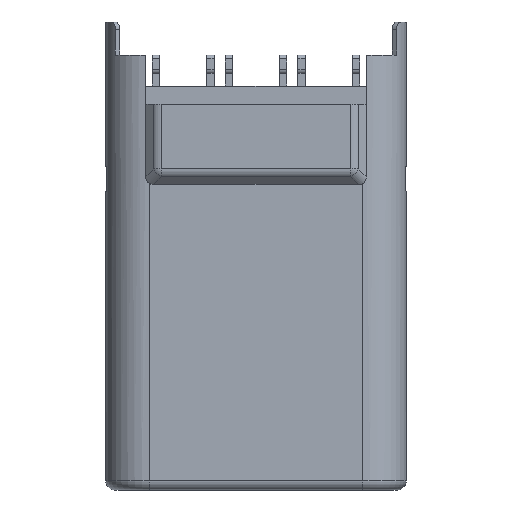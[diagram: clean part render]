
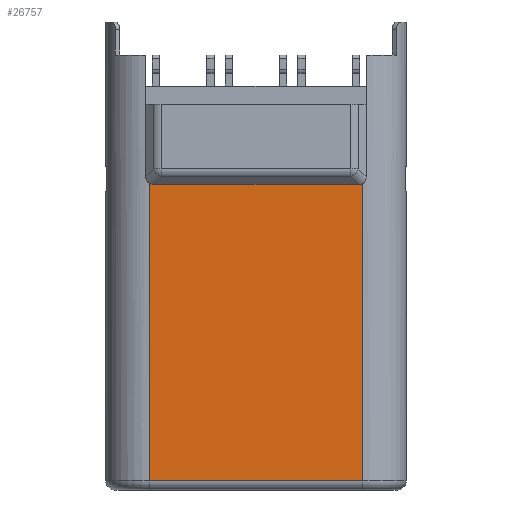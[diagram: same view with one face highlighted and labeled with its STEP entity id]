
A CAD part, front view. The second image highlights one B-rep face of the part: STEP entity #26757.
In plain terms, the highlighted planar face has unit normal (0, -1, 0).
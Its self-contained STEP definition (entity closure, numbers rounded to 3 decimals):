
#2078=DIRECTION('',(1.,0.,0.));
#2079=VECTOR('',#2078,5.85);
#2080=CARTESIAN_POINT('',(-2.925,-1.2,0.22));
#2081=LINE('',#2080,#2079);
#6088=CARTESIAN_POINT('',(2.925,-1.2,8.385));
#6089=CARTESIAN_POINT('',(2.89,-1.2,8.367));
#6090=CARTESIAN_POINT('',(2.852,-1.2,8.36));
#6091=CARTESIAN_POINT('',(2.813,-1.2,8.36));
#6093=CARTESIAN_POINT('',(-2.925,-1.2,8.385));
#6111=CARTESIAN_POINT('',(2.925,-1.2,8.385));
#6121=CARTESIAN_POINT('',(-2.813,-1.2,8.36));
#6122=CARTESIAN_POINT('',(-2.852,-1.2,8.36));
#6123=CARTESIAN_POINT('',(-2.89,-1.2,8.367));
#6124=CARTESIAN_POINT('',(-2.925,-1.2,8.385));
#6161=DIRECTION('',(1.,0.,0.));
#6162=VECTOR('',#6161,5.626);
#6163=CARTESIAN_POINT('',(-2.813,-1.2,8.36));
#6164=LINE('',#6163,#6162);
#6165=DIRECTION('',(0.,0.,-1.));
#6166=VECTOR('',#6165,8.165);
#6167=CARTESIAN_POINT('',(2.925,-1.2,8.385));
#6168=LINE('',#6167,#6166);
#6169=DIRECTION('',(0.,0.,1.));
#6170=VECTOR('',#6169,8.165);
#6171=CARTESIAN_POINT('',(-2.925,-1.2,0.22));
#6172=LINE('',#6171,#6170);
#15314=CARTESIAN_POINT('',(-2.925,-1.2,0.22));
#15315=CARTESIAN_POINT('',(2.925,-1.2,0.22));
#15316=VERTEX_POINT('',#15314);
#15317=VERTEX_POINT('',#15315);
#17527=VERTEX_POINT('',#6093);
#17531=CARTESIAN_POINT('',(-2.813,-1.2,8.36));
#17533=VERTEX_POINT('',#17531);
#17546=VERTEX_POINT('',#6111);
#17547=CARTESIAN_POINT('',(2.813,-1.2,8.36));
#17548=VERTEX_POINT('',#17547);
#26743=CARTESIAN_POINT('',(0.,-1.2,5.095));
#26744=DIRECTION('',(0.,1.,0.));
#26745=DIRECTION('',(0.,0.,-1.));
#26746=AXIS2_PLACEMENT_3D('',#26743,#26744,#26745);
#26747=PLANE('',#26746);
#26748=ORIENTED_EDGE('',*,*,#26738,.T.);
#26749=ORIENTED_EDGE('',*,*,#26638,.F.);
#26751=ORIENTED_EDGE('',*,*,#26750,.T.);
#26752=ORIENTED_EDGE('',*,*,#21555,.F.);
#26753=ORIENTED_EDGE('',*,*,#22164,.T.);
#26754=ORIENTED_EDGE('',*,*,#26687,.F.);
#26755=EDGE_LOOP('',(#26748,#26749,#26751,#26752,#26753,#26754));
#26756=FACE_OUTER_BOUND('',#26755,.F.);
#6092=B_SPLINE_CURVE_WITH_KNOTS('',3,(#6088,#6089,#6090,#6091),.UNSPECIFIED.,
.F.,.F.,(4,4),(0.,1.),.UNSPECIFIED.);
#6125=B_SPLINE_CURVE_WITH_KNOTS('',3,(#6121,#6122,#6123,#6124),.UNSPECIFIED.,
.F.,.F.,(4,4),(0.,1.),.UNSPECIFIED.);
#21555=EDGE_CURVE('',#15316,#15317,#2081,.T.);
#22164=EDGE_CURVE('',#15316,#17527,#6172,.T.);
#26638=EDGE_CURVE('',#17546,#17548,#6092,.T.);
#26687=EDGE_CURVE('',#17533,#17527,#6125,.T.);
#26738=EDGE_CURVE('',#17533,#17548,#6164,.T.);
#26750=EDGE_CURVE('',#17546,#15317,#6168,.T.);
#26757=ADVANCED_FACE('',(#26756),#26747,.F.);
